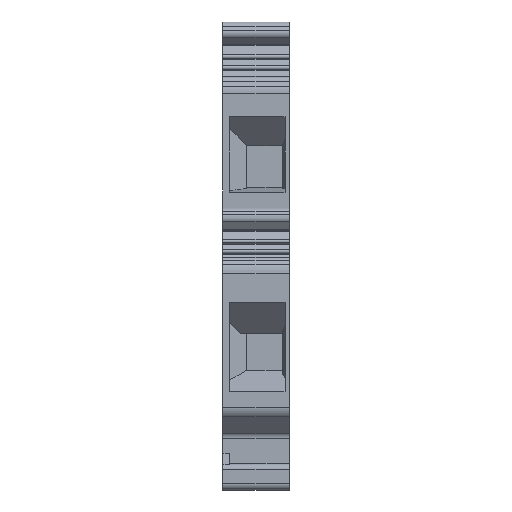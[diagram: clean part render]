
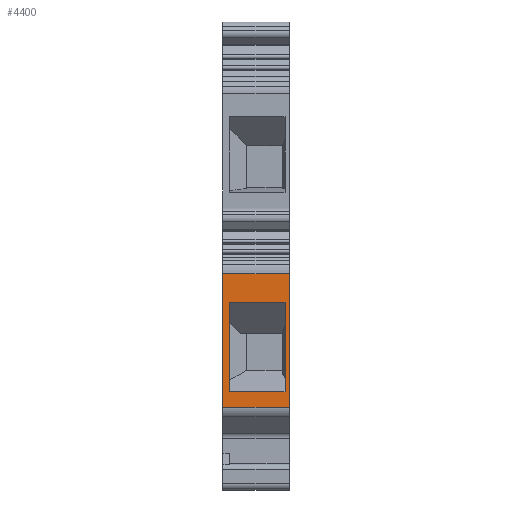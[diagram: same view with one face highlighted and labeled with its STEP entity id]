
A CAD part, front view. The second image highlights one B-rep face of the part: STEP entity #4400.
In plain terms, the highlighted planar face has unit normal (0, -1, 0).
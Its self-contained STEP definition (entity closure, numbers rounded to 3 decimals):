
#2069=FACE_BOUND('',#9214,.T.);
#2070=FACE_BOUND('',#9215,.T.);
#2734=PLANE('',#44052);
#4400=ADVANCED_FACE('',(#2069,#2070),#2734,.T.);
#9214=EDGE_LOOP('',(#25721,#25722,#25723,#25724));
#9215=EDGE_LOOP('',(#25725,#25726,#25727,#25728));
#11469=LINE('',#55406,#15241);
#11876=LINE('',#56969,#15648);
#13366=LINE('',#65984,#17551);
#13373=LINE('',#65998,#17558);
#13374=LINE('',#66000,#17559);
#13375=LINE('',#66001,#17560);
#13376=LINE('',#66002,#17561);
#13377=LINE('',#66003,#17562);
#15241=VECTOR('',#45923,1.);
#15648=VECTOR('',#47090,1.);
#17551=VECTOR('',#50331,1.);
#17558=VECTOR('',#50342,1.);
#17559=VECTOR('',#50345,1.);
#17560=VECTOR('',#50346,1.);
#17561=VECTOR('',#50347,1.);
#17562=VECTOR('',#50348,1.);
#25721=ORIENTED_EDGE('',*,*,#35442,.F.);
#25722=ORIENTED_EDGE('',*,*,#38634,.F.);
#25723=ORIENTED_EDGE('',*,*,#36155,.F.);
#25724=ORIENTED_EDGE('',*,*,#38635,.F.);
#25725=ORIENTED_EDGE('',*,*,#38633,.T.);
#25726=ORIENTED_EDGE('',*,*,#38636,.T.);
#25727=ORIENTED_EDGE('',*,*,#38626,.T.);
#25728=ORIENTED_EDGE('',*,*,#38637,.T.);
#31521=VERTEX_POINT('',#55405);
#31522=VERTEX_POINT('',#55407);
#32149=VERTEX_POINT('',#56968);
#32150=VERTEX_POINT('',#56970);
#33715=VERTEX_POINT('',#65983);
#33716=VERTEX_POINT('',#65985);
#33719=VERTEX_POINT('',#65995);
#33720=VERTEX_POINT('',#65997);
#35442=EDGE_CURVE('',#31521,#31522,#11469,.T.);
#36155=EDGE_CURVE('',#32149,#32150,#11876,.T.);
#38626=EDGE_CURVE('',#33716,#33715,#13366,.T.);
#38633=EDGE_CURVE('',#33719,#33720,#13373,.T.);
#38634=EDGE_CURVE('',#32150,#31521,#13374,.T.);
#38635=EDGE_CURVE('',#31522,#32149,#13375,.T.);
#38636=EDGE_CURVE('',#33720,#33716,#13376,.T.);
#38637=EDGE_CURVE('',#33715,#33719,#13377,.T.);
#44052=AXIS2_PLACEMENT_3D('',#66004,#50349,#50350);
#45923=DIRECTION('',(0.,0.,-1.));
#47090=DIRECTION('',(0.,0.,1.));
#50331=DIRECTION('',(-1.,0.,0.));
#50342=DIRECTION('',(1.,0.,0.));
#50345=DIRECTION('',(1.,0.,0.));
#50346=DIRECTION('',(-1.,0.,0.));
#50347=DIRECTION('',(0.,0.,-1.));
#50348=DIRECTION('',(0.,0.,1.));
#50349=DIRECTION('',(0.,-1.,0.));
#50350=DIRECTION('',(-1.,0.,0.));
#55405=CARTESIAN_POINT('',(10.2,0.,-38.638));
#55406=CARTESIAN_POINT('',(10.2,0.,-38.638));
#55407=CARTESIAN_POINT('',(10.2,0.,-59.123));
#56968=CARTESIAN_POINT('',(0.,0.,-59.123));
#56969=CARTESIAN_POINT('',(0.,0.,-59.123));
#56970=CARTESIAN_POINT('',(0.,0.,-38.638));
#65983=CARTESIAN_POINT('',(1.05,0.,-56.698));
#65984=CARTESIAN_POINT('',(9.55,0.,-56.698));
#65985=CARTESIAN_POINT('',(9.55,0.,-56.698));
#65995=CARTESIAN_POINT('',(1.05,0.,-43.));
#65997=CARTESIAN_POINT('',(9.55,0.,-43.));
#65998=CARTESIAN_POINT('',(1.05,0.,-43.));
#66000=CARTESIAN_POINT('',(0.,0.,-38.638));
#66001=CARTESIAN_POINT('',(10.2,0.,-59.123));
#66002=CARTESIAN_POINT('',(9.55,0.,-43.));
#66003=CARTESIAN_POINT('',(1.05,0.,-56.698));
#66004=CARTESIAN_POINT('',(10.2,0.,-38.102));
